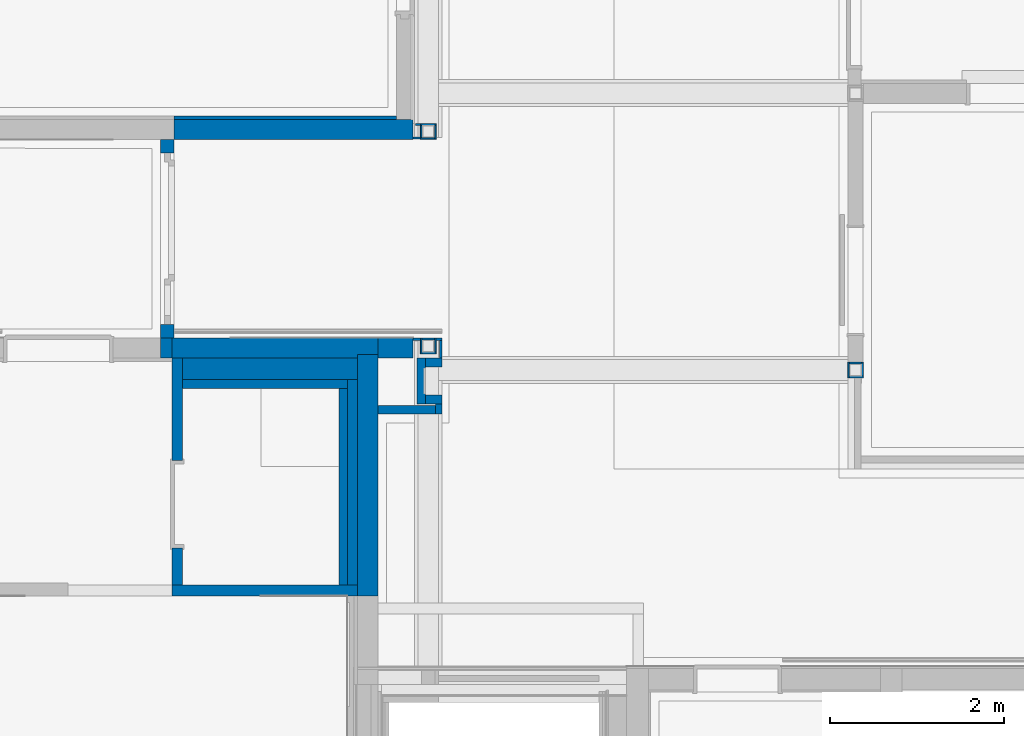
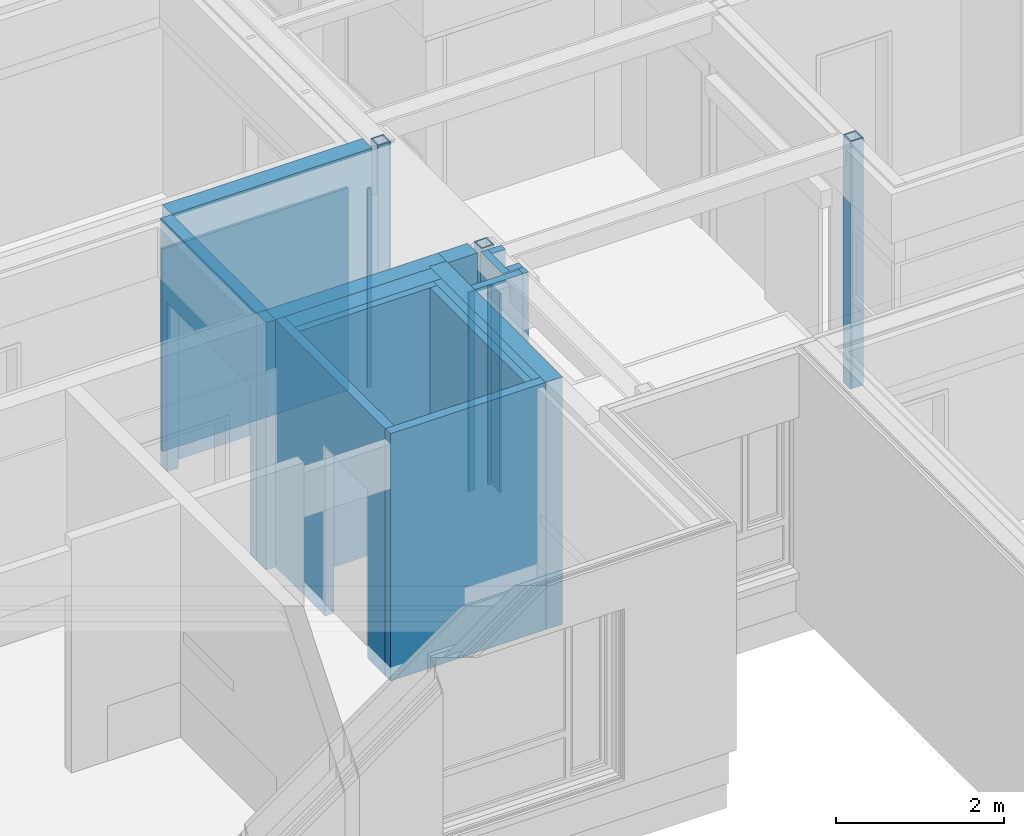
# One storey, part 23 of 207: 35 walls, 2 openings.
"""IFC4 building model written with IfcOpenShell, lengths in metres."""

import ifcopenshell
import ifcopenshell.guid

model = None  # the IFC model being written
_history = None  # IfcOwnerHistory: only IFC2X3 demands one
_inside = {}  # id of a spatial element -> (the spatial element, [elements in it])
_under = {}  # id of a project, library or spatial element -> (it, [spatial elements below it])
_declared = {}  # id of a project -> (the project, [libraries it declares])
_typed = {}  # id of a type object -> (the type object, [elements of that type])
_made_of = {}  # id of a material, layer set ... -> (it, [elements and type objects made of it])


def new_model(schema):
    """Start an empty IFC model of exactly this schema.

    Asked for "IFC4X3", IfcOpenShell would pick the latest addendum, in which some entities
    have other attributes; the version numbers below select the first issue.
    IFC2X3 requires an IfcOwnerHistory on every rooted entity: one is made here for all.
    """
    global model, _history
    if schema == "IFC4X3":
        model = ifcopenshell.file(schema_version=(4, 3, 0, 0))
    else:
        model = ifcopenshell.file(schema=schema)
    _inside.clear()
    _under.clear()
    _declared.clear()
    _typed.clear()
    _made_of.clear()
    _history = None
    if model.schema == "IFC2X3":
        org = make("IfcOrganization", Name="unknown")
        user = make(
            "IfcPersonAndOrganization",
            ThePerson=make("IfcPerson", FamilyName="unknown"),
            TheOrganization=org,
        )
        app = make(
            "IfcApplication",
            ApplicationDeveloper=org,
            Version="unknown",
            ApplicationFullName="unknown",
            ApplicationIdentifier="unknown",
        )
        _history = make(
            "IfcOwnerHistory",
            OwningUser=user,
            OwningApplication=app,
            ChangeAction="ADDED",
            CreationDate=0,
        )
    return model


def make(cls, **values):
    """One entity of the class cls with the attributes given. An attribute that is None is left unset."""
    return model.create_entity(
        cls, **{name: value for name, value in values.items() if value is not None}
    )


def entity(cls, *values):
    """Any entity or typed value of the class cls, its attributes in the order of the schema. None: left unset."""
    e = model.create_entity(cls)
    for i, value in enumerate(values):
        if value is not None:
            e[i] = value
    return e


def rooted(cls, **values):
    """An entity with a GlobalId (a new one), such as an element, a storey or a relation."""
    return make(cls, GlobalId=ifcopenshell.guid.new(), OwnerHistory=_history, **values)


def si_unit(unit_type, name, prefix=None):
    """IfcSIUnit, for example si_unit("LENGTHUNIT", "METRE", prefix="MILLI")."""
    return make("IfcSIUnit", UnitType=unit_type, Prefix=prefix, Name=name)


def converted_unit(unit_type, name, factor, base, dimensions=None, offset=None):
    """IfcConversionBasedUnit, such as the inch: factor (a typed value) times the base unit."""
    return make(
        "IfcConversionBasedUnit"
        if offset is None
        else "IfcConversionBasedUnitWithOffset",
        ConversionOffset=offset,
        Dimensions=None
        if dimensions is None
        else entity("IfcDimensionalExponents", *dimensions),
        UnitType=unit_type,
        Name=name,
        ConversionFactor=make(
            "IfcMeasureWithUnit", ValueComponent=factor, UnitComponent=base
        ),
    )


def derived_unit(unit_type, elements):
    """IfcDerivedUnit: a product of units, each with its exponent."""
    return make(
        "IfcDerivedUnit",
        Elements=[
            make("IfcDerivedUnitElement", Unit=unit, Exponent=power)
            for unit, power in elements
        ],
        UnitType=unit_type,
    )


def assignment(units):
    """IfcUnitAssignment: the units of a project."""
    return None if units is None else make("IfcUnitAssignment", Units=units)


def point(xyz):
    """IfcCartesianPoint."""
    return None if xyz is None else make("IfcCartesianPoint", Coordinates=xyz)


def direction(xyz):
    """IfcDirection."""
    return None if xyz is None else make("IfcDirection", DirectionRatios=xyz)


def frame(location, z_axis=None, x_axis=None):
    """IfcAxis2Placement3D, a coordinate frame: its origin and axes. An axis left out is left unset."""
    return make(
        "IfcAxis2Placement3D",
        Location=point(location),
        Axis=direction(z_axis),
        RefDirection=direction(x_axis),
    )


def frame_2d(location, x_axis=None):
    """IfcAxis2Placement2D, a coordinate frame in the plane: its origin and x axis."""
    return make(
        "IfcAxis2Placement2D", Location=point(location), RefDirection=direction(x_axis)
    )


def origin():
    """The frame at (0, 0, 0) with its axes left unset."""
    return frame((0.0, 0.0, 0.0))


def origin_with_axes():
    """The frame at (0, 0, 0) with the z axis (0, 0, 1) and the x axis (1, 0, 0) written out."""
    return frame((0.0, 0.0, 0.0), z_axis=(0.0, 0.0, 1.0), x_axis=(1.0, 0.0, 0.0))


def place(relative_to, where):
    """IfcLocalPlacement: puts the frame where relative to a parent placement (None: the world)."""
    return make(
        "IfcLocalPlacement", PlacementRelTo=relative_to, RelativePlacement=where
    )


def context(
    kind, dimensions, precision=None, world=None, true_north=None, identifier=None
):
    """IfcGeometricRepresentationContext, for example the 3D "Model" context."""
    return make(
        "IfcGeometricRepresentationContext",
        ContextIdentifier=identifier,
        ContextType=kind,
        CoordinateSpaceDimension=dimensions,
        Precision=precision,
        WorldCoordinateSystem=world,
        TrueNorth=true_north,
    )


def subcontext(parent, identifier, kind, view, scale=None):
    """IfcGeometricRepresentationSubContext, for example "Body" below "Model"."""
    return make(
        "IfcGeometricRepresentationSubContext",
        ContextIdentifier=identifier,
        ContextType=kind,
        ParentContext=parent,
        TargetScale=scale,
        TargetView=view,
    )


def project(units=None, contexts=None):
    """IfcProject with its units and contexts."""
    return rooted(
        "IfcProject",
        Name="project",
        RepresentationContexts=contexts,
        UnitsInContext=assignment(units),
    )


def spatial(cls, under=None, at=None, **own):
    """A site, building, storey or space (cls), placed at a placement, below another one or the project."""
    s = rooted(cls, ObjectPlacement=at, **own)
    if under is not None:
        _under.setdefault(under.id(), (under, []))[1].append(s)
    return s


def polyline(points):
    """IfcPolyline through the points."""
    return make("IfcPolyline", Points=[point(p) for p in points])


def profile(cls, at=None, kind="AREA", **sizes):
    """A parametric profile (cls). Its sizes go by their IFC names, for example OverallWidth=200.0."""
    return make(cls, ProfileType=kind, Position=at, **sizes)


def rectangle(**sizes):
    """IfcRectangleProfileDef."""
    return profile("IfcRectangleProfileDef", **sizes)


def outline(outer, holes=None, kind="AREA"):
    """IfcArbitraryClosedProfileDef: a profile drawn as a closed curve; with holes, ...WithVoids."""
    if holes is None:
        return make("IfcArbitraryClosedProfileDef", ProfileType=kind, OuterCurve=outer)
    return make(
        "IfcArbitraryProfileDefWithVoids",
        ProfileType=kind,
        OuterCurve=outer,
        InnerCurves=holes,
    )


def extrude(swept, where, along, depth):
    """IfcExtrudedAreaSolid: the profile swept, set in the frame where, extruded along a direction by depth."""
    return make(
        "IfcExtrudedAreaSolid",
        SweptArea=swept,
        Position=where,
        ExtrudedDirection=direction(along),
        Depth=depth,
    )


def shape(context_of_items, identifier, shape_type, items):
    """IfcShapeRepresentation: the items that make up one representation, for example the "Body"."""
    return make(
        "IfcShapeRepresentation",
        ContextOfItems=context_of_items,
        RepresentationIdentifier=identifier,
        RepresentationType=shape_type,
        Items=items,
    )


def material(Name=None, Category=None):
    """IfcMaterial."""
    return make("IfcMaterial", Name=Name, Category=Category)


def made_of(thing, what):
    """Note that an element or type object is made of a material, layer set ...; save() writes the relation."""
    if what is not None:
        _made_of.setdefault(what.id(), (what, []))[1].append(thing)
    return thing


def element(
    cls,
    number,
    at=None,
    inside=None,
    cuts=None,
    type_object=None,
    material=None,
    context=None,
    identifier="Body",
    shape_type=None,
    held_by="IfcProductDefinitionShape",
    body=None,
    shapes=None,
    **own,
):
    """One element of the class cls, such as IfcWall. Its Tag is "e" and its number.

    at: its placement. inside: the storey or other place that contains it. cuts: it is an
    opening in that element (IfcRelVoidsElement). A single representation is given by context,
    identifier, shape_type and body (its items); several are given by shapes. held_by: the class
    of the entity that holds the representations. save() writes the other relations.
    """
    e = rooted(cls, Tag="e%d" % number, ObjectPlacement=at, **own)
    if body is not None:
        shapes = [shape(context, identifier, shape_type, body)]
    if shapes is not None:
        e.Representation = make(held_by, Representations=shapes)
    if inside is not None:
        _inside.setdefault(inside.id(), (inside, []))[1].append(e)
    if cuts is not None:
        rooted(
            "IfcRelVoidsElement", RelatingBuildingElement=cuts, RelatedOpeningElement=e
        )
    if type_object is not None:
        _typed.setdefault(type_object.id(), (type_object, []))[1].append(e)
    return made_of(e, material)


def aggregate(whole, parts):
    """IfcRelAggregates: a whole, such as a stair, and the parts it consists of."""
    return rooted("IfcRelAggregates", RelatingObject=whole, RelatedObjects=parts)


def save(model, path):
    """Write the relations noted so far, then the file.

    IfcRelAggregates (storeys below a building ...), IfcRelContainedInSpatialStructure (elements
    in a storey), IfcRelDefinesByType, IfcRelAssociatesMaterial and IfcRelDeclares: one each for
    every whole, place, type object, material and project.
    """
    for whole, parts in _under.values():
        aggregate(whole, parts)
    for where, things in _inside.values():
        rooted(
            "IfcRelContainedInSpatialStructure",
            RelatedElements=things,
            RelatingStructure=where,
        )
    for kind, things in _typed.values():
        rooted("IfcRelDefinesByType", RelatedObjects=things, RelatingType=kind)
    for what, things in _made_of.values():
        rooted("IfcRelAssociatesMaterial", RelatedObjects=things, RelatingMaterial=what)
    for by, libraries in _declared.values():
        rooted("IfcRelDeclares", RelatingContext=by, RelatedDefinitions=libraries)
    model.write(path)


model = new_model("IFC4")

# Units and contexts
model_context = context("Model", 3, precision=1e-05, world=origin())
body_context = subcontext(model_context, "Body", "Model", "MODEL_VIEW")
ifc_project = project(units=[si_unit("LENGTHUNIT", "METRE"), si_unit("AREAUNIT", "SQUARE_METRE"), si_unit("VOLUMEUNIT", "CUBIC_METRE"), si_unit("MASSUNIT", "GRAM", prefix="KILO"), converted_unit("PLANEANGLEUNIT", "DEGREE", entity("IfcPlaneAngleMeasure", 0.0174532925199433), si_unit("PLANEANGLEUNIT", "RADIAN"), dimensions=[0, 0, 0, 0, 0, 0, 0]), derived_unit("THERMALTRANSMITTANCEUNIT", [(si_unit("POWERUNIT", "WATT"), 1), (si_unit("THERMODYNAMICTEMPERATUREUNIT", "KELVIN"), -1), (si_unit("LENGTHUNIT", "METRE"), -2)]), derived_unit("VOLUMETRICFLOWRATEUNIT", [(si_unit("LENGTHUNIT", "METRE"), 3), (converted_unit("TIMEUNIT", "hour", entity("IfcTimeMeasure", 3600.0), si_unit("TIMEUNIT", "SECOND"), dimensions=[0, 0, 1, 0, 0, 0, 0]), -1), (si_unit("LENGTHUNIT", "METRE"), -1)])], contexts=[model_context])

# Site, building, storey
site_placement = place(None, origin())
site = spatial("IfcSite", under=ifc_project, at=site_placement, Name="Psychiatrie Neubau Wunstorf", CompositionType="ELEMENT")
building_placement = place(site_placement, origin())
building = spatial("IfcBuilding", under=site, at=building_placement, Name="Neubau H2 Stationsgebäude", CompositionType="ELEMENT")
storey_placement = place(building_placement, frame((0.0, 0.0, -0.2)))
storey = spatial("IfcBuildingStorey", under=building, at=storey_placement, Name="H2 Ebene 0", CompositionType="ELEMENT", Elevation=-0.2)

# Walls
ifc_material_1 = material(Name="WI-LB")
wall_1_placement = place(storey_placement, frame((34.9325, 1.48374963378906, 0.0), z_axis=(0.0, 0.0, 1.0), x_axis=(-1.0, 0.0, 0.0)))
element("IfcWall", 1, at=wall_1_placement, inside=storey, material=ifc_material_1, context=body_context, shape_type="SweptSolid", body=[
    extrude(rectangle(XDim=2.14, YDim=0.125, at=frame_2d((1.07, 0.0625), x_axis=(1.0, 0.0))), origin_with_axes(), (0.0, 0.0, 1.0), 3.6),
])
ifc_material_2 = material(Name="WI-HW 60")
wall_2_placement = place(storey_placement, frame((35.57, 4.33074963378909, 0.0), z_axis=(0.0, 0.0, 1.0), x_axis=(-1.0, 0.0, 0.0)))
element("IfcWall", 2, at=wall_2_placement, inside=storey, material=ifc_material_2, context=body_context, shape_type="SweptSolid", body=[
    extrude(rectangle(XDim=0.405499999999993, YDim=0.235, at=frame_2d((0.202749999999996, 0.1175), x_axis=(1.0, 0.0))), origin_with_axes(), (0.0, 0.0, 1.0), 3.6),
])
ifc_material_3 = material(Name="WI-HW 60")
wall_3_placement = place(storey_placement, frame((32.8184999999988, 6.612, 0.0)))
element("IfcWall", 3, at=wall_3_placement, inside=storey, material=ifc_material_3, context=body_context, shape_type="SweptSolid", body=[
    extrude(rectangle(XDim=2.75150000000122, YDim=0.232, at=frame_2d((1.37575000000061, 0.116), x_axis=(1.0, 0.0))), origin_with_axes(), (0.0, 0.0, 1.0), 3.6),
])
ifc_material_4 = material(Name="WI-LB")
wall_4_placement = place(storey_placement, frame((32.8184999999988, 6.844, 0.0)))
element("IfcWall", 4, at=wall_4_placement, inside=storey, material=ifc_material_4, context=body_context, shape_type="SweptSolid", body=[
    extrude(rectangle(XDim=2.56150000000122, YDim=0.04, at=frame_2d((1.28075000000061, 0.02), x_axis=(1.0, 0.0))), origin_with_axes(), (0.0, 0.0, 1.0), 2.95),
])
ifc_material_5 = material(Name="WI-HW 60")
wall_5_placement = place(storey_placement, frame((32.7925, 4.09874963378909, 0.0)))
element("IfcWall", 5, at=wall_5_placement, inside=storey, material=ifc_material_5, context=body_context, shape_type="SweptSolid", body=[
    extrude(outline(polyline([(0.0, 0.0), (2.14, 0.0), (2.14, 0.0395), (2.372, 0.0394999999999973), (2.372, 0.232), (0.0, 0.232), (0.0, 0.0)])), origin_with_axes(), (0.0, 0.0, 1.0), 3.6),
])

# Wall, opening
ifc_material_6 = material(Name="WI-LB")
wall_6_placement = place(storey_placement, frame((32.7925, 4.09874963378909, 0.0), z_axis=(0.0, 0.0, 1.0), x_axis=(0.0, -1.0, 0.0)))
wall_6 = element("IfcWall", 6, at=wall_6_placement, inside=storey, material=ifc_material_6, context=body_context, shape_type="SweptSolid", body=[
    extrude(rectangle(XDim=2.61500000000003, YDim=0.125, at=frame_2d((1.30750000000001, 0.0625), x_axis=(1.0, 0.0))), origin_with_axes(), (0.0, 0.0, 1.0), 3.6),
])
opening_1_placement = place(wall_6_placement, frame((2.19000000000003, 0.125, 0.0), z_axis=(0.0, -1.0, 0.0), x_axis=(0.0, 0.0, 1.0)))
element("IfcOpeningElement", 7, at=opening_1_placement, cuts=wall_6, Name="Türöffnung", ObjectType="Opening", context=body_context, shape_type="SweptSolid", body=[
    extrude(outline(polyline([(2.46, 1.01), (2.46, 0.0), (0.0, 0.0), (0.0, 1.01), (2.46, 1.01)])), origin_with_axes(), (0.0, 0.0, 1.0), 0.125),
])

# Walls
ifc_material_7 = material(Name="WI-HW 60")
wall_7_placement = place(storey_placement, frame((35.1645, 1.35874963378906, 0.0), z_axis=(0.0, 0.0, 1.0), x_axis=(0.0, 1.0, 0.0)))
element("IfcWall", 8, at=wall_7_placement, inside=storey, material=ifc_material_7, context=body_context, shape_type="SweptSolid", body=[
    extrude(rectangle(XDim=2.77950000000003, YDim=0.232, at=frame_2d((1.38975000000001, 0.116), x_axis=(1.0, 0.0))), origin_with_axes(), (0.0, 0.0, 1.0), 3.6),
])
ifc_material_8 = material(Name="WI-LB")
wall_8_placement = place(storey_placement, frame((35.57, 4.30074963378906, 0.0)))
element("IfcWall", 9, at=wall_8_placement, inside=storey, material=ifc_material_8, context=body_context, shape_type="SweptSolid", body=[
    extrude(rectangle(XDim=0.0849950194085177, YDim=0.025, at=frame_2d((0.0424975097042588, 0.0125), x_axis=(1.0, 0.0))), origin_with_axes(), (0.0, 0.0, 1.0), 2.9),
])
ifc_material_9 = material(Name="WI-LB")
wall_9_placement = place(storey_placement, frame((35.6552396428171, 6.64199856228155, 0.0), z_axis=(0.0, 0.0, 1.0), x_axis=(-1.0, 0.0, 0.0)))
element("IfcWall", 10, at=wall_9_placement, inside=storey, material=ifc_material_9, context=body_context, shape_type="SweptSolid", body=[
    extrude(rectangle(XDim=0.0849950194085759, YDim=0.025, at=frame_2d((0.042497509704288, 0.0125), x_axis=(1.0, 0.0))), origin_with_axes(), (0.0, 0.0, 1.0), 2.9),
])
ifc_material_10 = material(Name="WI-LB")
wall_10_placement = place(storey_placement, frame((35.9009950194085, 4.09574963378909, 0.0), z_axis=(0.0, 0.0, 1.0), x_axis=(-1.0, 0.0, 0.0)))
element("IfcWall", 11, at=wall_10_placement, inside=storey, material=ifc_material_10, context=body_context, shape_type="SweptSolid", body=[
    extrude(rectangle(XDim=0.186495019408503, YDim=0.1, at=frame_2d((0.0932475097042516, 0.05), x_axis=(1.0, 0.0))), origin_with_axes(), (0.0, 0.0, 1.0), 3.6),
])
ifc_material_11 = material(Name="WI-LB")
wall_11_placement = place(storey_placement, frame((35.8759950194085, 4.30074963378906, 0.0), z_axis=(0.0, 0.0, 1.0), x_axis=(0.0, -1.0, 0.0)))
element("IfcWall", 12, at=wall_11_placement, inside=storey, material=ifc_material_11, context=body_context, shape_type="SweptSolid", body=[
    extrude(rectangle(XDim=0.204999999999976, YDim=0.025, at=frame_2d((0.102499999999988, 0.0125), x_axis=(1.0, 0.0))), origin_with_axes(), (0.0, 0.0, 1.0), 2.9),
])
ifc_material_12 = material(Name="WI-LB")
wall_12_placement = place(storey_placement, frame((35.8349950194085, 4.30074963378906, 0.0)))
element("IfcWall", 13, at=wall_12_placement, inside=storey, material=ifc_material_12, context=body_context, shape_type="SweptSolid", body=[
    extrude(rectangle(XDim=0.0659999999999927, YDim=0.025, at=frame_2d((0.0329999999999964, 0.0125), x_axis=(1.0, 0.0))), origin_with_axes(), (0.0, 0.0, 1.0), 2.9),
])
ifc_material_13 = material(Name="WI-LB")
wall_13_placement = place(storey_placement, frame((35.9009950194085, 3.45074963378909, 0.0), z_axis=(0.0, 0.0, 1.0), x_axis=(0.0, 1.0, 0.0)))
element("IfcWall", 14, at=wall_13_placement, inside=storey, material=ifc_material_13, context=body_context, shape_type="SweptSolid", body=[
    extrude(rectangle(XDim=0.12, YDim=0.075, at=frame_2d((0.06, 0.0375), x_axis=(1.0, 0.0))), origin_with_axes(), (0.0, 0.0, 1.0), 3.6),
])
ifc_material_14 = material(Name="WI-LB")
wall_14_placement = place(storey_placement, frame((35.6145, 4.09574963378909, 0.0), z_axis=(0.0, 0.0, 1.0), x_axis=(0.0, -1.0, 0.0)))
element("IfcWall", 15, at=wall_14_placement, inside=storey, material=ifc_material_14, context=body_context, shape_type="SweptSolid", body=[
    extrude(rectangle(XDim=0.525, YDim=0.1, at=frame_2d((0.2625, 0.05), x_axis=(1.0, 0.0))), origin_with_axes(), (0.0, 0.0, 1.0), 3.6),
])
ifc_material_15 = material(Name="WI-LB")
wall_15_placement = place(storey_placement, frame((35.9009950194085, 3.67074963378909, 0.0), z_axis=(0.0, 0.0, 1.0), x_axis=(-1.0, 0.0, 0.0)))
element("IfcWall", 16, at=wall_15_placement, inside=storey, material=ifc_material_15, context=body_context, shape_type="SweptSolid", body=[
    extrude(rectangle(XDim=0.186495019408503, YDim=0.1, at=frame_2d((0.0932475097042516, 0.05), x_axis=(1.0, 0.0))), origin_with_axes(), (0.0, 0.0, 1.0), 3.6),
])
ifc_material_16 = material(Name="WI-HW 60")
wall_16_placement = place(storey_placement, frame((32.7925, 4.33074963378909, 0.0), z_axis=(0.0, 0.0, 1.0), x_axis=(-1.0, 0.0, 0.0)))
element("IfcWall", 17, at=wall_16_placement, inside=storey, material=ifc_material_16, context=body_context, shape_type="SweptSolid", body=[
    extrude(rectangle(XDim=0.129000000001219, YDim=0.232, at=frame_2d((0.0645000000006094, 0.116), x_axis=(1.0, 0.0))), origin_with_axes(), (0.0, 0.0, 1.0), 3.6),
])
ifc_material_17 = material(Name="BS Beplankung")
wall_17_placement = place(storey_placement, frame((35.6552396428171, 6.77699856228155, 0.0)))
element("IfcWall", 18, at=wall_17_placement, inside=storey, material=ifc_material_17, context=body_context, shape_type="SweptSolid", body=[
    extrude(rectangle(XDim=0.18, YDim=0.02, at=frame_2d((0.09, 0.01), x_axis=(1.0, 0.0))), origin_with_axes(), (0.0, 0.0, 1.0), 3.6),
])
ifc_material_18 = material(Name="BS Beplankung")
wall_18_placement = place(storey_placement, frame((40.7549975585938, 3.88999694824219, 0.0), z_axis=(0.0, 0.0, 1.0), x_axis=(-1.0, 0.0, 0.0)))
element("IfcWall", 19, at=wall_18_placement, inside=storey, material=ifc_material_18, context=body_context, shape_type="SweptSolid", body=[
    extrude(rectangle(XDim=0.16, YDim=0.02, at=frame_2d((0.08, 0.01), x_axis=(1.0, 0.0))), origin_with_axes(), (0.0, 0.0, 1.0), 3.6),
])
ifc_material_19 = material(Name="BS Beplankung")
wall_19_placement = place(storey_placement, frame((40.5949975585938, 4.02999694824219, 0.0)))
element("IfcWall", 20, at=wall_19_placement, inside=storey, material=ifc_material_19, context=body_context, shape_type="SweptSolid", body=[
    extrude(outline(polyline([(0.0, 0.0), (0.14, 0.0), (0.14, 0.0199918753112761), (0.0, 0.0199989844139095), (0.0, 0.0)])), origin_with_axes(), (0.0, 0.0, 1.0), 3.6),
])
ifc_material_20 = material(Name="BS Beplankung")
wall_20_placement = place(storey_placement, frame((40.5949975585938, 3.86999694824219, 0.0), z_axis=(0.0, 0.0, 1.0), x_axis=(0.0, 1.0, 0.0)))
element("IfcWall", 21, at=wall_20_placement, inside=storey, material=ifc_material_20, context=body_context, shape_type="SweptSolid", body=[
    extrude(outline(polyline([(0.0, -0.02), (0.17999898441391, -0.02), (0.18, 0.0), (0.0, 0.0), (0.0, -0.02)])), frame((0.0, 0.02, 0.0), z_axis=(0.0, 0.0, 1.0), x_axis=(1.0, 0.0, 0.0)), (0.0, 0.0, 1.0), 3.6),
])
ifc_material_21 = material(Name="BS Beplankung")
wall_21_placement = place(storey_placement, frame((40.7349975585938, 4.04998882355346, 0.0), z_axis=(0.0, 0.0, 1.0), x_axis=(0.0, -1.0, 0.0)))
element("IfcWall", 22, at=wall_21_placement, inside=storey, material=ifc_material_21, context=body_context, shape_type="SweptSolid", body=[
    extrude(outline(polyline([(-0.159991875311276, 0.0), (0.0, 0.0), (0.0, 0.02), (-0.16, 0.02), (-0.16, 0.0150000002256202), (-0.15999111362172, 0.0149999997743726), (-0.159991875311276, 0.0)])), frame((0.159991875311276, 0.0, 0.0), z_axis=(0.0, 0.0, 1.0), x_axis=(1.0, 0.0, 0.0)), (0.0, 0.0, 1.0), 3.6),
])
ifc_material_22 = material(Name="BS Beplankung")
wall_22_placement = place(storey_placement, frame((35.6749950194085, 4.30574963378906, 0.0)))
element("IfcWall", 23, at=wall_22_placement, inside=storey, material=ifc_material_22, context=body_context, shape_type="SweptSolid", body=[
    extrude(rectangle(XDim=0.14, YDim=0.02, at=frame_2d((0.07, 0.01), x_axis=(1.0, 0.0))), origin_with_axes(), (0.0, 0.0, 1.0), 3.6),
])
ifc_material_23 = material(Name="BS Beplankung")
wall_23_placement = place(storey_placement, frame((35.8152396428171, 6.77699856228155, 0.0), z_axis=(0.0, 0.0, 1.0), x_axis=(0.0, -1.0, 0.0)))
element("IfcWall", 24, at=wall_23_placement, inside=storey, material=ifc_material_23, context=body_context, shape_type="SweptSolid", body=[
    extrude(rectangle(XDim=0.16, YDim=0.02, at=frame_2d((0.08, 0.01), x_axis=(1.0, 0.0))), origin_with_axes(), (0.0, 0.0, 1.0), 3.6),
])
ifc_material_24 = material(Name="BS Beplankung")
wall_24_placement = place(storey_placement, frame((35.6752396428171, 6.63699856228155, 0.0), z_axis=(0.0, 0.0, 1.0), x_axis=(0.0, 1.0, 0.0)))
element("IfcWall", 25, at=wall_24_placement, inside=storey, material=ifc_material_24, context=body_context, shape_type="SweptSolid", body=[
    extrude(rectangle(XDim=0.14, YDim=0.02, at=frame_2d((0.07, 0.01), x_axis=(1.0, 0.0))), origin_with_axes(), (0.0, 0.0, 1.0), 3.6),
])
ifc_material_25 = material(Name="BS Beplankung")
wall_25_placement = place(storey_placement, frame((35.8152396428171, 6.63699856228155, 0.0), z_axis=(0.0, 0.0, 1.0), x_axis=(-1.0, 0.0, 0.0)))
element("IfcWall", 26, at=wall_25_placement, inside=storey, material=ifc_material_25, context=body_context, shape_type="SweptSolid", body=[
    extrude(rectangle(XDim=0.16, YDim=0.02, at=frame_2d((0.08, 0.01), x_axis=(1.0, 0.0))), origin_with_axes(), (0.0, 0.0, 1.0), 3.6),
])
ifc_material_26 = material(Name="BS Beplankung")
wall_26_placement = place(storey_placement, frame((35.6749950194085, 4.14574963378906, 0.0), z_axis=(0.0, 0.0, 1.0), x_axis=(0.0, 1.0, 0.0)))
element("IfcWall", 27, at=wall_26_placement, inside=storey, material=ifc_material_26, context=body_context, shape_type="SweptSolid", body=[
    extrude(rectangle(XDim=0.18, YDim=0.02, at=frame_2d((0.09, 0.01), x_axis=(1.0, 0.0))), origin_with_axes(), (0.0, 0.0, 1.0), 3.6),
])
ifc_material_27 = material(Name="BS Beplankung")
wall_27_placement = place(storey_placement, frame((35.8349950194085, 4.16574963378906, 0.0), z_axis=(0.0, 0.0, 1.0), x_axis=(-1.0, 0.0, 0.0)))
element("IfcWall", 28, at=wall_27_placement, inside=storey, material=ifc_material_27, context=body_context, shape_type="SweptSolid", body=[
    extrude(rectangle(XDim=0.16, YDim=0.02, at=frame_2d((0.08, 0.01), x_axis=(1.0, 0.0))), origin_with_axes(), (0.0, 0.0, 1.0), 3.6),
])
ifc_material_28 = material(Name="BS Beplankung")
wall_28_placement = place(storey_placement, frame((35.8149950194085, 4.32574963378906, 0.0), z_axis=(0.0, 0.0, 1.0), x_axis=(0.0, -1.0, 0.0)))
element("IfcWall", 29, at=wall_28_placement, inside=storey, material=ifc_material_28, context=body_context, shape_type="SweptSolid", body=[
    extrude(rectangle(XDim=0.16, YDim=0.02, at=frame_2d((0.08, 0.01), x_axis=(1.0, 0.0))), origin_with_axes(), (0.0, 0.0, 1.0), 3.6),
])
ifc_material_29 = material(Name="WI-LB")
wall_29_placement = place(storey_placement, frame((35.8259950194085, 3.55074963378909, 0.0), z_axis=(0.0, 0.0, 1.0), x_axis=(-1.0, 0.0, 0.0)))
element("IfcWall", 30, at=wall_29_placement, inside=storey, material=ifc_material_29, context=body_context, shape_type="SweptSolid", body=[
    extrude(rectangle(XDim=0.661495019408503, YDim=0.1, at=frame_2d((0.330747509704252, 0.05), x_axis=(1.0, 0.0))), origin_with_axes(), (0.0, 0.0, 1.0), 3.6),
])
ifc_material_30 = material(Name="WI-IW")
wall_30_placement = place(storey_placement, frame((32.9175, 3.74874963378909, 0.0)))
element("IfcWall", 31, at=wall_30_placement, inside=storey, material=ifc_material_30, context=body_context, shape_type="SweptSolid", body=[
    extrude(rectangle(XDim=1.9, YDim=0.1, at=frame_2d((0.95, 0.05), x_axis=(1.0, 0.0))), origin_with_axes(), (0.0, 0.0, 1.0), 3.6),
])
ifc_material_31 = material(Name="Installationsraum")
wall_31_placement = place(storey_placement, frame((32.9175, 3.84874963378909, 0.0)))
element("IfcWall", 32, at=wall_31_placement, inside=storey, material=ifc_material_31, context=body_context, shape_type="SweptSolid", body=[
    extrude(rectangle(XDim=2.015, YDim=0.25, at=frame_2d((1.0075, 0.125), x_axis=(1.0, 0.0))), origin_with_axes(), (0.0, 0.0, 1.0), 3.6),
])
ifc_material_32 = material(Name="WI-IW")
wall_32_placement = place(storey_placement, frame((34.7175, 3.74874963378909, 0.0), z_axis=(0.0, 0.0, 1.0), x_axis=(0.0, -1.0, 0.0)))
element("IfcWall", 33, at=wall_32_placement, inside=storey, material=ifc_material_32, context=body_context, shape_type="SweptSolid", body=[
    extrude(rectangle(XDim=2.26500000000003, YDim=0.1, at=frame_2d((1.13250000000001, 0.05), x_axis=(1.0, 0.0))), origin_with_axes(), (0.0, 0.0, 1.0), 3.6),
])
ifc_material_33 = material(Name="Installationsraum")
wall_33_placement = place(storey_placement, frame((34.8175, 3.84874963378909, 0.0), z_axis=(0.0, 0.0, 1.0), x_axis=(0.0, -1.0, 0.0)))
element("IfcWall", 34, at=wall_33_placement, inside=storey, material=ifc_material_33, context=body_context, shape_type="SweptSolid", body=[
    extrude(rectangle(XDim=2.36500000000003, YDim=0.115, at=frame_2d((1.18250000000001, 0.0575), x_axis=(1.0, 0.0))), origin_with_axes(), (0.0, 0.0, 1.0), 3.6),
])
ifc_material_34 = material(Name="WI-LB")
wall_34_placement = place(storey_placement, frame((35.6, 6.77199856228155, 0.0)))
element("IfcWall", 35, at=wall_34_placement, inside=storey, material=ifc_material_34, context=body_context, shape_type="SweptSolid", body=[
    extrude(rectangle(XDim=0.0552396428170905, YDim=0.025, at=frame_2d((0.0276198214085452, 0.0125), x_axis=(1.0, 0.0))), origin_with_axes(), (0.0, 0.0, 1.0), 2.9),
])

# Wall, opening
ifc_material_35 = material(Name="WI-LB")
wall_35_placement = place(storey_placement, frame((32.6634999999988, 6.612, 0.0), z_axis=(0.0, 0.0, 1.0), x_axis=(0.0, -1.0, 0.0)))
wall_35 = element("IfcWall", 36, at=wall_35_placement, inside=storey, material=ifc_material_35, context=body_context, shape_type="SweptSolid", body=[
    extrude(rectangle(XDim=2.2812503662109, YDim=0.154999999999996, at=frame_2d((1.14062518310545, 0.0774999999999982), x_axis=(1.0, 0.0))), origin_with_axes(), (0.0, 0.0, 1.0), 3.6),
])
opening_2_placement = place(wall_35_placement, frame((0.155000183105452, 0.0, 0.0), z_axis=(0.0, 1.0, 0.0), x_axis=(0.0, 0.0, 1.0)))
element("IfcOpeningElement", 37, at=opening_2_placement, cuts=wall_35, Name="Türöffnung", ObjectType="Opening", context=body_context, shape_type="SweptSolid", body=[
    extrude(outline(polyline([(2.46, 1.97125), (2.46, 0.0), (0.0, 0.0), (0.0, 1.97125), (2.46, 1.97125)])), origin_with_axes(), (0.0, 0.0, 1.0), 0.154999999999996),
])

save(model, "model.ifc")
